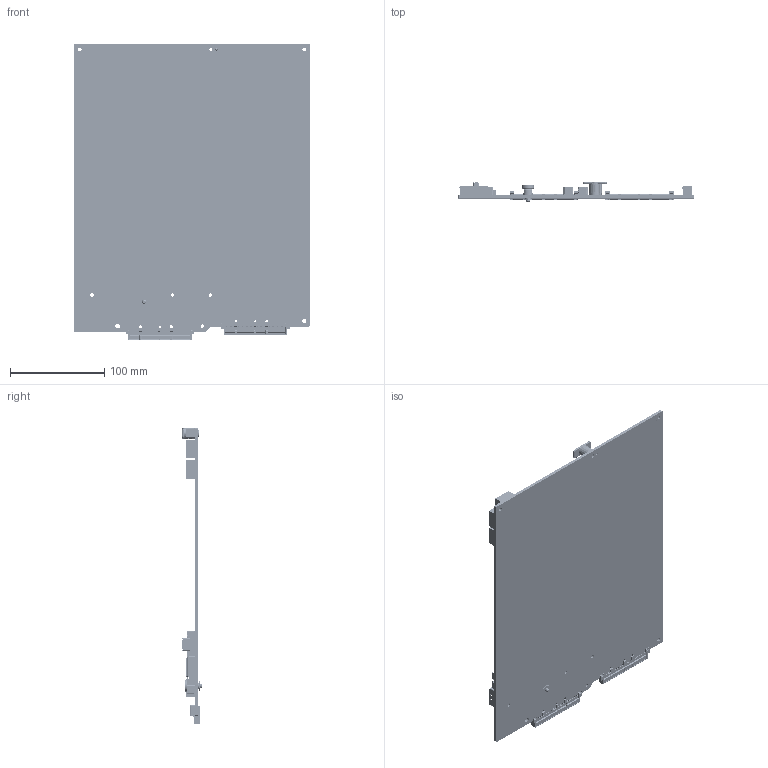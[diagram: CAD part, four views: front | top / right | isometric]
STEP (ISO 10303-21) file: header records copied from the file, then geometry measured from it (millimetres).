
FILE_DESCRIPTION((''),'2;1');
FILE_NAME('M-SDNO-PBA-ASSY-CLASS_B305_ASM','2024-06-03T13:23:54',('mmilobin'),('INTEL'),'CREO PARAMETRIC BY PTC INC, 2023294','CREO PARAMETRIC BY PTC INC, 2023294','');
FILE_SCHEMA(('AUTOMOTIVE_DESIGN { 1 0 10303 214 1 1 1 1 }'));
Products named in the file (27): M-SDNO-CLASS_B305-BOARD; MTG_DM8500N4500_8_AF86; MTG_DM8500N3700_8_AF5; MTG_SLOT_DM10000N4500_8_AF183; MTG_DM8500N3700_8_AF6; MTG_DM8500N3700_8_AF4; MTG_DM8500N3700_8_AF2; SCONN168_M31701001; SCONN84_APH-MCIO-2C-RA2; BOARD-LOCKING-MECHANISM-; BOARD-LOCKING-MECHANISM2; BOARD-LOCKING-MECHANISM3; BOARD-LOCKING-MECHANISM4; BOARD-LOCKING-MECHANISM_ASM; APH_SFF-1033_162P_4CP_VT; CONN-POWER-1158980_1; CONNECTOR-NEARSTACK-X4; CONNECTOR-NEARSTACK-X4_ASM; TK0_SHDR_SPV_2X10_1000_MA_VR; HSM103-CONN; H83816-005-CONN-2X9-SHOUDED; CONN4_E56240001A_ICL; MTG_SPOKE_N137; DC_MHS_HANDLE_DUMMY; MTG_SPOKE_N137_AF10; MTG_SPOKE_N137_AF11; M-SDNO-PBA-ASSY-CLASS_B305_ASM
Assembly tree (34 placements, depth 3):
  M-SDNO-PBA-ASSY-CLASS_B305_ASM
    M-SDNO-CLASS_B305-BOARD
    MTG_DM8500N4500_8_AF86
    MTG_DM8500N3700_8_AF5
    MTG_SLOT_DM10000N4500_8_AF183
    MTG_DM8500N3700_8_AF6
    MTG_DM8500N3700_8_AF4
    MTG_DM8500N3700_8_AF2
    SCONN168_M31701001  x2
    SCONN84_APH-MCIO-2C-RA2
    BOARD-LOCKING-MECHANISM_ASM
      BOARD-LOCKING-MECHANISM-
      BOARD-LOCKING-MECHANISM2
      BOARD-LOCKING-MECHANISM3
      BOARD-LOCKING-MECHANISM4
    APH_SFF-1033_162P_4CP_VT  x3
    CONN-POWER-1158980_1  x5
    CONNECTOR-NEARSTACK-X4_ASM
      CONNECTOR-NEARSTACK-X4
    TK0_SHDR_SPV_2X10_1000_MA_VR  x2
    HSM103-CONN
    H83816-005-CONN-2X9-SHOUDED
    CONN4_E56240001A_ICL
    MTG_SPOKE_N137
    DC_MHS_HANDLE_DUMMY
    MTG_SPOKE_N137_AF10
    MTG_SPOKE_N137_AF11
Bounding box: 250 x 21.56 x 314.52 mm (x, y, z)
Volume: 264279.8 mm3; surface area: 203432.3 mm2
Topology: 145 solids, 151 shells, 41850 faces, 118398 edges, 78594 vertices
Faces by surface type: plane 27222, cylinder 13470, bspline 975, cone 99, torus 68, sphere 16
Entity records: 621190 total; most frequent: CARTESIAN_POINT 127452, ORIENTED_EDGE 98988, DIRECTION 97521, EDGE_CURVE 49506, VECTOR 37413, LINE 37413, VERTEX_POINT 32640, AXIS2_PLACEMENT_3D 30010
